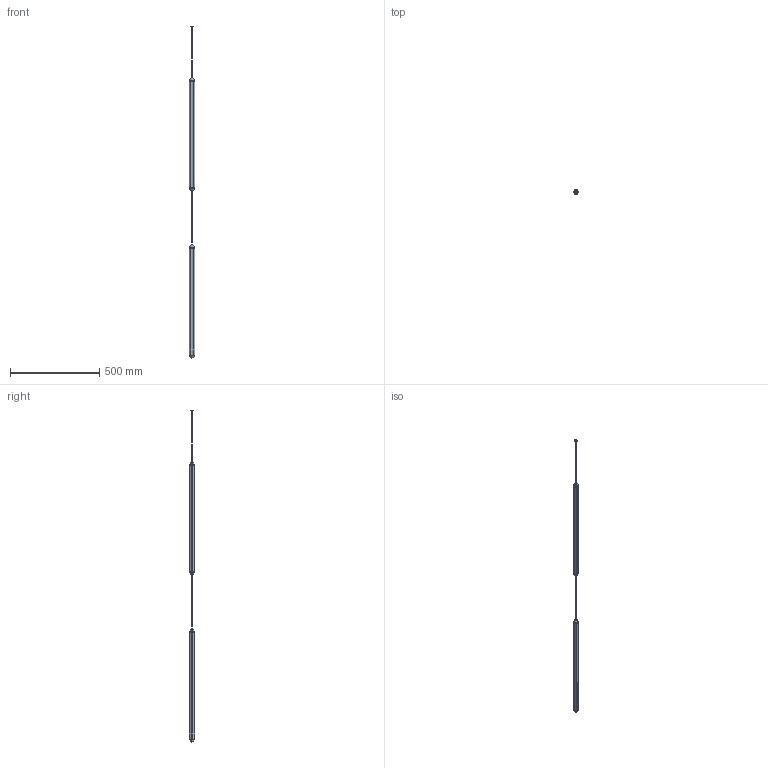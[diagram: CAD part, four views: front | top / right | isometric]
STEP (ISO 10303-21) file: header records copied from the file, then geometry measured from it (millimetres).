
FILE_DESCRIPTION(/* description */ (''),/* implementation_level */ '2;1');
FILE_NAME(/* name */ '64622-131_3d',/* time_stamp */ '2026-05-26T08:17:09+02:00',/* author */ (''),/* organization */ (''),/* preprocessor_version */ 'ST-DEVELOPER v19.2',/* originating_system */ 'Rhino 8.30',/* authorisation */ '');
FILE_SCHEMA (('CONFIG_CONTROL_DESIGN'));
Length unit declared in the file: millimetre
Products named in the file (3): Document; Block 11; Block 09
Bounding box: 33.58 x 29.26 x 1865.14 mm (x, y, z)
Volume: 445576.9 mm3; surface area: 207573.4 mm2
Topology: 6 solids, 70 shells, 174 faces, 668 edges, 553 vertices
Faces by surface type: cylinder 100, plane 66, bspline 8
Entity records: 7087 total; most frequent: CARTESIAN_POINT 3015, ORIENTED_EDGE 784, DIRECTION 521, EDGE_CURVE 483, VERTEX_POINT 376, AXIS2_PLACEMENT_3D 329, B_SPLINE_CURVE_WITH_KNOTS 281, CIRCLE 180
